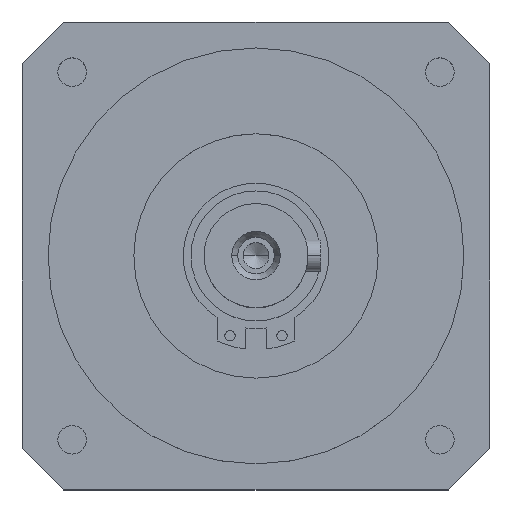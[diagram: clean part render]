
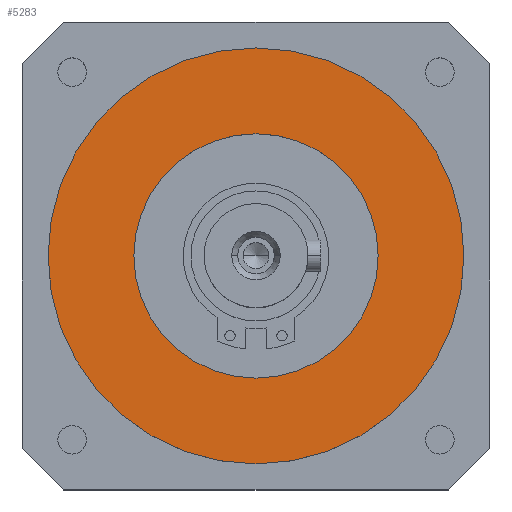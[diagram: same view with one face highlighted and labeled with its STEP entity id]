
A CAD part, top view. The second image highlights one B-rep face of the part: STEP entity #5283.
In plain terms, the highlighted planar face has unit normal (0, 0, 1).
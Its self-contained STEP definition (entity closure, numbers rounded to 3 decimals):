
#921 = ORIENTED_EDGE ( 'NONE', *, *, #26337, .F. ) ;
#1144 = VERTEX_POINT ( 'NONE', #19414 ) ;
#1390 = ORIENTED_EDGE ( 'NONE', *, *, #24563, .F. ) ;
#3813 = DIRECTION ( 'NONE',  ( 0., 0., -1. ) ) ;
#3918 = EDGE_CURVE ( 'NONE', #6767, #1144, #16328, .T. ) ;
#3943 = EDGE_LOOP ( 'NONE', ( #1390, #921 ) ) ;
#4661 = CARTESIAN_POINT ( 'NONE',  ( 0., 0., 18. ) ) ;
#5283 = ADVANCED_FACE ( 'NONE', ( #16537, #7352 ), #24185, .F. ) ;
#5478 = DIRECTION ( 'NONE',  ( 0., 0., -1. ) ) ;
#5787 = ORIENTED_EDGE ( 'NONE', *, *, #3918, .F. ) ;
#5998 = DIRECTION ( 'NONE',  ( 0., 0., 1. ) ) ;
#6767 = VERTEX_POINT ( 'NONE', #27567 ) ;
#7352 = FACE_BOUND ( 'NONE', #3943, .T. ) ;
#7870 = CARTESIAN_POINT ( 'NONE',  ( 0., 0., 18. ) ) ;
#10220 = DIRECTION ( 'NONE',  ( 1., 0., 0. ) ) ;
#12730 = EDGE_CURVE ( 'NONE', #1144, #6767, #30107, .T. ) ;
#13106 = AXIS2_PLACEMENT_3D ( 'NONE', #20085, #5998, #22470 ) ;
#14440 = ORIENTED_EDGE ( 'NONE', *, *, #12730, .F. ) ;
#15902 = DIRECTION ( 'NONE',  ( 0., 0., -1. ) ) ;
#16328 = CIRCLE ( 'NONE', #18217, 40. ) ;
#16537 = FACE_OUTER_BOUND ( 'NONE', #30236, .T. ) ;
#17874 = CARTESIAN_POINT ( 'NONE',  ( 0., 0., 18. ) ) ;
#18217 = AXIS2_PLACEMENT_3D ( 'NONE', #4661, #15902, #25845 ) ;
#19293 = CARTESIAN_POINT ( 'NONE',  ( -23.5, 0., 18. ) ) ;
#19414 = CARTESIAN_POINT ( 'NONE',  ( 40., 0., 18. ) ) ;
#19553 = CARTESIAN_POINT ( 'NONE',  ( 30.36, -30.36, 18. ) ) ;
#20085 = CARTESIAN_POINT ( 'NONE',  ( 0., 0., 18. ) ) ;
#20281 = DIRECTION ( 'NONE',  ( 1., 0., 0. ) ) ;
#21481 = AXIS2_PLACEMENT_3D ( 'NONE', #7870, #24341, #10220 ) ;
#21729 = VERTEX_POINT ( 'NONE', #24063 ) ;
#21926 = DIRECTION ( 'NONE',  ( -1., 0., 0. ) ) ;
#22470 = DIRECTION ( 'NONE',  ( 1., 0., 0. ) ) ;
#22923 = CIRCLE ( 'NONE', #21481, 23.5 ) ;
#23458 = CIRCLE ( 'NONE', #13106, 23.5 ) ;
#24063 = CARTESIAN_POINT ( 'NONE',  ( 23.5, 0., 18. ) ) ;
#24185 = PLANE ( 'NONE',  #26738 ) ;
#24341 = DIRECTION ( 'NONE',  ( 0., 0., 1. ) ) ;
#24563 = EDGE_CURVE ( 'NONE', #21729, #25395, #23458, .T. ) ;
#25395 = VERTEX_POINT ( 'NONE', #19293 ) ;
#25845 = DIRECTION ( 'NONE',  ( 1., 0., 0. ) ) ;
#26337 = EDGE_CURVE ( 'NONE', #25395, #21729, #22923, .T. ) ;
#26738 = AXIS2_PLACEMENT_3D ( 'NONE', #19553, #5478, #21926 ) ;
#27567 = CARTESIAN_POINT ( 'NONE',  ( -40., 0., 18. ) ) ;
#28230 = AXIS2_PLACEMENT_3D ( 'NONE', #17874, #3813, #20281 ) ;
#30107 = CIRCLE ( 'NONE', #28230, 40. ) ;
#30236 = EDGE_LOOP ( 'NONE', ( #14440, #5787 ) ) ;
